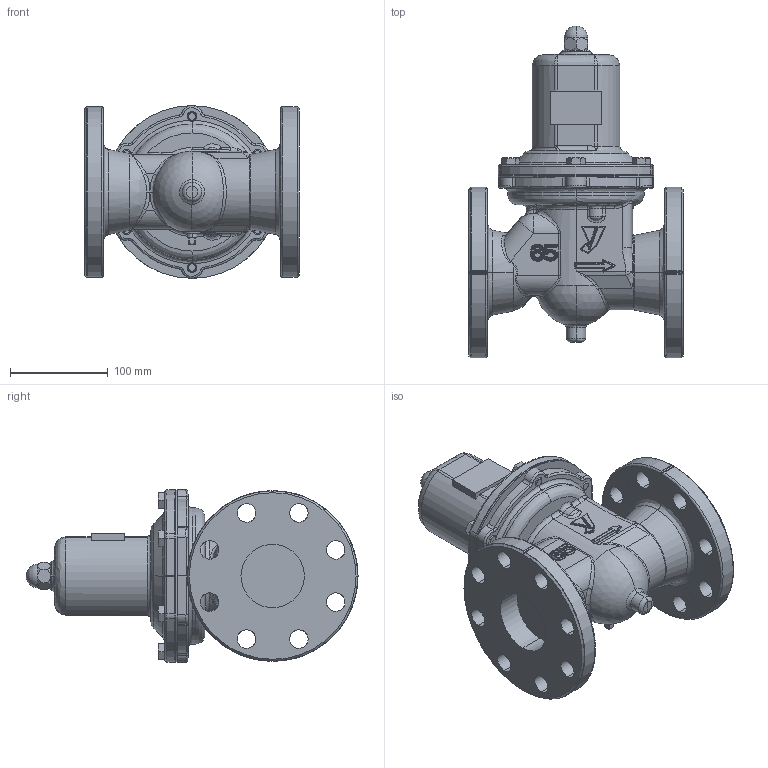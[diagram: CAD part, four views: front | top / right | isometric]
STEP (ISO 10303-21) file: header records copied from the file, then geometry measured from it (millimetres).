
FILE_DESCRIPTION( (''), '2;1');
FILE_NAME ('PC2091.19220.GD-29-NE 65A_24553.stp','2026-04-16T18:03:13',(''),(''),'spGate 21.9.4 (****-****-****-****)','','');
FILE_SCHEMA (('AUTOMOTIVE_DESIGN'));
Length unit declared in the file: millimetre
Products named in the file (6): Assembly; 保護筒 65-80A; CP_''_JIS B 1183 六角袋ナット 3形 M''_705; 四角プラグ R1／8; GD-27_65A_弁箱 16K; CP_''_JIS B 1180 呼び径六角ボルト''_17166
Assembly tree (10 placements, depth 2):
  Assembly
    保護筒 65-80A
    CP_''_JIS B 1183 六角袋ナット 3形 M''_705
    四角プラグ R1／8
    GD-27_65A_弁箱 16K
    CP_''_JIS B 1180 呼び径六角ボルト''_17166  x6
Bounding box: 220 x 340.5 x 177 mm (x, y, z)
Volume: 2880785.3 mm3; surface area: 387916 mm2
Topology: 10 solids, 10 shells, 829 faces, 1975 edges, 1122 vertices
Faces by surface type: bspline 370, cylinder 245, plane 165, sphere 49
Entity records: 48939 total; most frequent: CARTESIAN_POINT 21368, ORIENTED_EDGE 3324, DIRECTION 2459, COLOUR_RGB 2376, PRESENTATION_STYLE_ASSIGNMENT 2376, STYLED_ITEM 2376, EDGE_CURVE 1662, DRAUGHTING_PRE_DEFINED_CURVE_FONT 1662
